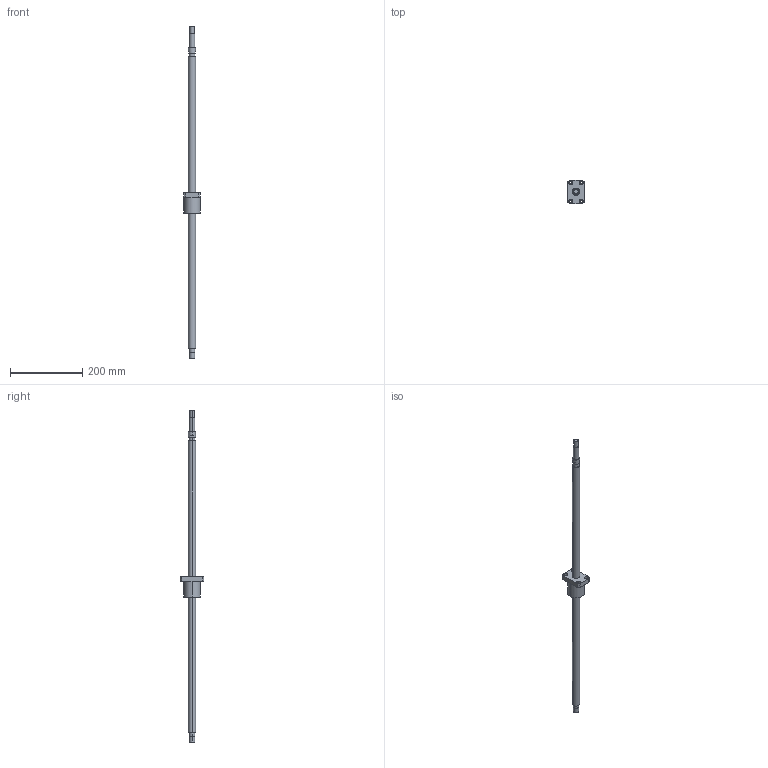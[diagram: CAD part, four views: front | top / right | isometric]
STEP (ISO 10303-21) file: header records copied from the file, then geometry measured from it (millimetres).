
FILE_DESCRIPTION((''),'2;1');
FILE_NAME('R20-20K2-FSC-810-920','2008-04-03T',('wcwu'),(''),'PRO/ENGINEER BY PARAMETRIC TECHNOLOGY CORPORATION, 2005070','PRO/ENGINEER BY PARAMETRIC TECHNOLOGY CORPORATION, 2005070','');
FILE_SCHEMA(('CONFIG_CONTROL_DESIGN'));
Length unit declared in the file: millimetre
Products named in the file (1): R20-20K2-FSC-810-920
Bounding box: 46 x 66 x 920 mm (x, y, z)
Volume: 365454.3 mm3; surface area: 69027.9 mm2
Topology: 1 solids, 1 shells, 65 faces, 146 edges, 96 vertices
Faces by surface type: cylinder 40, plane 25
Entity records: 1906 total; most frequent: DIRECTION 360, CARTESIAN_POINT 307, ORIENTED_EDGE 292, AXIS2_PLACEMENT_3D 149, EDGE_CURVE 146, VERTEX_POINT 96, EDGE_LOOP 86, CIRCLE 84
